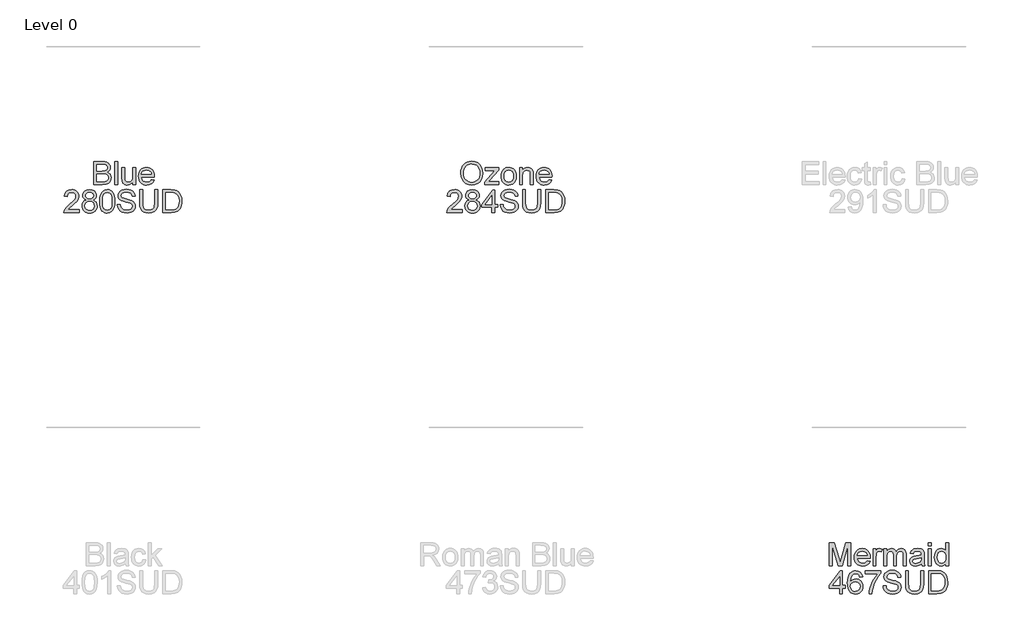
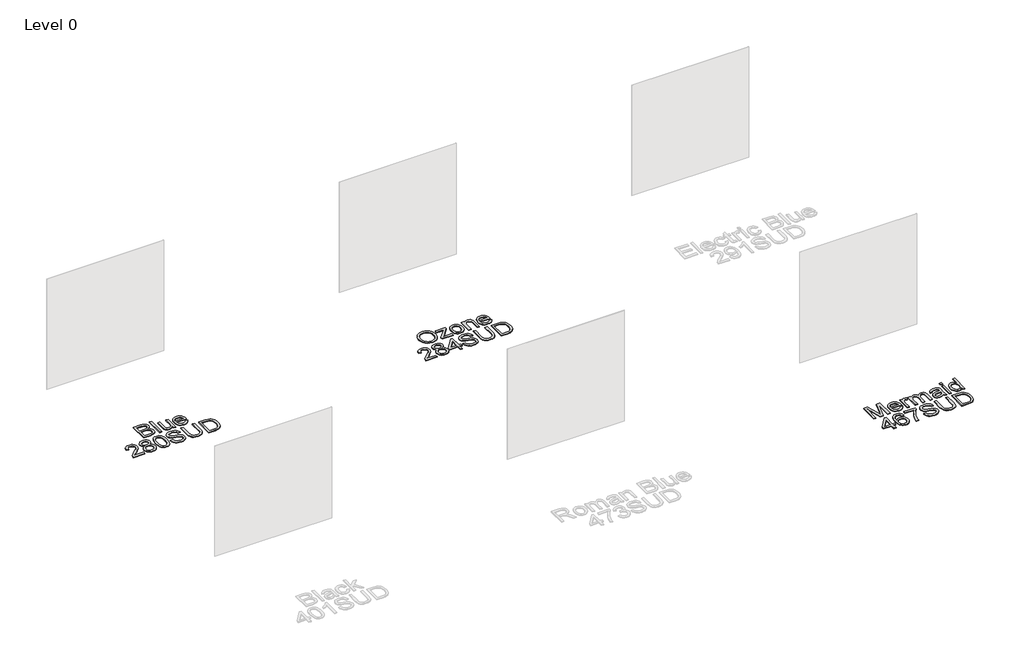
# One storey, part 17 of 37: 3 proxies.
"""IFC4 building model written with IfcOpenShell, lengths in millimetres."""

from ifc_helpers import new_model, si_unit, origin, origin_with_axes, place, context, project, spatial, polyline, outline, extrude, element, save

model = new_model("IFC4")

# Units and contexts
model_context = context("Model", 3, world=origin())
ifc_project = project(units=[si_unit("LENGTHUNIT", "METRE", prefix="MILLI")], contexts=[model_context])

# Site, building, storey
site = spatial("IfcSite", under=ifc_project)
building = spatial("IfcBuilding", under=site)
storey = spatial("IfcBuildingStorey", under=building, Name="Level 0", Elevation=0.0)

# Proxies
placement = place(None, origin())
element("IfcBuildingElementProxy", 1, Name="300mm Arial", ObjectType="300mm Arial", at=placement, inside=storey, context=model_context, shape_type="SweptSolid", body=[
    extrude(outline(polyline([(165.5674463, -36932.860494), (165.5674463, -36631.4915635), (280.567358, -36631.4915635), (312.1960126, -36633.7080526), (336.8900915, -36640.3575196), (355.8176201, -36651.6055116), (370.1466238, -36667.6175755), (379.1689298, -36686.4531336), (382.1763651, -36706.1716086), (379.6471764, -36724.317388), (372.0596102, -36741.3779155), (359.3584843, -36756.3047274), (341.4886164, -36768.0493601), (362.8349692, -36779.1961846), (378.6079097, -36796.1555446), (388.3475856, -36817.8054), (391.5941442, -36843.0237108), (389.3776551, -36864.0389697), (382.7281881, -36883.5275184), (372.8045713, -36900.1006023), (360.765633, -36912.3694668), (346.022762, -36921.253817), (327.9873472, -36927.6733578), (279.6844412, -36932.860494), (165.5674463, -36932.860494)]), holes=[polyline([(203.2385626, -36753.9226915), (272.0324957, -36753.9226915), (312.2052096, -36750.68533), (326.2674989, -36745.1027207), (336.3750567, -36736.7426024), (342.4727008, -36725.7337336), (344.5052488, -36712.2048733), (342.6106565, -36699.071486), (336.9268797, -36687.630356), (327.7114357, -36678.7000206), (315.221842, -36673.0990172), (266.8085714, -36669.1626798), (203.2385626, -36669.1626798), (203.2385626, -36753.9226915)]), polyline([(203.2385626, -36895.1893777), (280.4937816, -36895.1893777), (308.4528133, -36893.7178497), (332.1076255, -36885.5140812), (347.7793985, -36868.7754504), (352.3871205, -36856.9480443), (353.9230279, -36843.3915928), (352.1204061, -36827.6462434), (346.7125407, -36814.1081859), (337.2671705, -36803.5223815), (323.3520341, -36796.6337912), (303.6427562, -36792.8538037), (276.8149617, -36791.5938078), (203.2385626, -36791.5938078), (203.2385626, -36895.1893777)])]), origin_with_axes(), (0.0, 0.0, 1.0), 10.0),
    extrude(outline(polyline([(438.6830395, -36932.860494), (438.6830395, -36631.4915635), (476.3541558, -36631.4915635), (476.3541558, -36932.860494), (438.6830395, -36932.860494)])), origin_with_axes(), (0.0, 0.0, 1.0), 10.0),
    extrude(outline(polyline([(674.1275165, -36932.860494), (674.1275165, -36894.8214957), (660.4974885, -36913.5236966), (644.6233804, -36926.8824116), (626.5051922, -36934.8976405), (606.1429237, -36937.5693835), (587.7948092, -36935.6931853), (570.7158876, -36930.0645908), (556.3868839, -36921.6033049), (546.2885231, -36911.2290327), (535.0681223, -36883.4907302), (532.8608303, -36848.4683643), (532.8608303, -36711.5426857), (570.5319466, -36711.5426857), (570.5319466, -36830.7364521), (572.812815, -36869.1433324), (578.3034538, -36881.9548229), (587.7120358, -36891.6944987), (600.4131617, -36897.8473251), (615.781432, -36899.8982672), (632.0326192, -36897.8013398), (647.2353426, -36891.5105577), (659.7709216, -36881.605335), (668.0206753, -36868.6650858), (672.6008062, -36850.9423707), (674.1275165, -36826.6897502), (674.1275165, -36711.5426857), (711.7986328, -36711.5426857), (711.7986328, -36932.860494), (674.1275165, -36932.860494)])), origin_with_axes(), (0.0, 0.0, 1.0), 10.0),
    extrude(outline(polyline([(918.5483141, -36866.9360404), (955.4836664, -36871.64493), (942.1755352, -36899.4752029), (920.939547, -36920.2789297), (892.2539484, -36933.2467701), (856.5969861, -36937.5693835), (833.2226838, -36935.7046817), (812.3959643, -36930.1105761), (794.1168277, -36920.7870668), (778.3852739, -36907.7341537), (765.7347318, -36891.3151204), (756.6986303, -36871.8932503), (751.2769694, -36849.4685435), (749.4697491, -36824.0409998), (751.2953635, -36797.7512327), (756.7722067, -36774.5792656), (765.9002787, -36754.5250983), (778.6795795, -36737.5887309), (794.3697466, -36724.133447), (812.2304174, -36714.5225298), (832.2615921, -36708.7559796), (854.4632705, -36706.8337961), (875.9498783, -36708.751381), (895.3809454, -36714.5041357), (912.7564719, -36724.0920602), (928.0764577, -36737.5151545), (940.5821463, -36754.4147337), (949.514781, -36774.4321128), (954.8743618, -36797.5672917), (956.6608888, -36823.8202706), (956.4401596, -36833.9738137), (787.1408654, -36833.9738137), (793.6615737, -36862.1719686), (808.8091149, -36882.902119), (830.6705025, -36895.6492302), (857.3327501, -36899.8982672), (877.3823188, -36897.9300985), (894.2681024, -36892.0255925), (907.9901008, -36881.8168672), (918.5483141, -36866.9360404)]), holes=[polyline([(787.1408654, -36796.3026974), (918.9897724, -36796.3026974), (913.8946068, -36776.4002814), (903.9066106, -36762.1632482), (881.9440555, -36748.9194964), (854.3161177, -36744.5049125), (828.923063, -36748.0273826), (807.9261981, -36758.5947929), (793.3304799, -36775.0667092), (787.1408654, -36796.3026974)])]), origin_with_axes(), (0.0, 0.0, 1.0), 10.0),
    extrude(outline(polyline([(-25.14258, -37261.1138312), (-25.14258, -37298.7849475), (-222.9159406, -37298.7849475), (-218.8692386, -37272.8124787), (-209.5802183, -37252.5145896), (-195.9869785, -37232.8237058), (-176.3236859, -37212.213117), (-148.8245068, -37189.156113), (-108.1735463, -37153.0484951), (-83.78297, -37126.3954446), (-71.5876819, -37104.7639833), (-67.5225858, -37083.7211331), (-71.3577556, -37064.8579838), (-82.863265, -37049.1770138), (-100.5491919, -37038.6096035), (-122.9256143, -37035.0871334), (-146.4240767, -37038.52683), (-164.6802207, -37048.84592), (-176.4616416, -37065.2350629), (-180.5359347, -37086.8849183), (-218.207051, -37082.1760288), (-209.0743805, -37045.7373171), (-200.5280219, -37031.2013798), (-189.3283144, -37019.1210548), (-175.7327754, -37009.6251008), (-159.9989224, -37002.8422765), (-122.1162739, -36997.4160171), (-101.9264502, -36998.9243332), (-83.957714, -37003.4492818), (-68.2100653, -37010.9908627), (-54.6835042, -37021.549076), (-43.819489, -37034.3421723), (-36.0594782, -37048.5884026), (-31.4034717, -37064.2877667), (-29.8514695, -37081.4402648), (-31.5253326, -37099.4572855), (-36.5469218, -37117.1616065), (-45.4588632, -37135.1694302), (-58.8037825, -37154.0969588), (-80.0765589, -37176.6941104), (-112.7720712, -37205.7108027), (-156.1085703, -37241.9471793), (-173.1047184, -37261.1138312), (-25.14258, -37261.1138312)])), origin_with_axes(), (0.0, 0.0, 1.0), 10.0),
    extrude(outline(polyline([(67.41653, -37132.7965913), (47.2473996, -37122.8637774), (33.0931399, -37109.3992964), (24.7330215, -37092.6790597), (21.9463154, -37072.9789789), (23.4638286, -37057.6153071), (28.0163683, -37043.5300252), (35.6039345, -37030.7231332), (46.2265271, -37019.1946312), (59.3737099, -37009.6664875), (74.5350466, -37002.8606706), (110.9001818, -36997.4160171), (147.4860463, -37002.9894293), (162.8129299, -37009.9561946), (176.1624478, -37019.709666), (186.9781784, -37031.4634957), (194.7037003, -37044.4313361), (199.3390135, -37058.613187), (200.8841179, -37074.0090485), (198.1341999, -37093.0745329), (189.8844462, -37109.509661), (176.0428861, -37122.8913686), (156.5175492, -37132.7965913), (179.703312, -37144.7435591), (196.5798985, -37162.3375155), (206.8713973, -37184.732332), (210.3018969, -37211.0818799), (208.6004427, -37229.8714528), (203.49608, -37247.0975272), (194.9888089, -37262.7601031), (183.0786293, -37276.8591806), (168.3909406, -37288.5118428), (151.5511423, -37296.8351729), (132.5592343, -37301.829171), (111.4152166, -37303.4938371), (90.271199, -37301.8222732), (71.279291, -37296.8075818), (54.4394926, -37288.4497627), (39.751804, -37276.748816), (27.8416244, -37262.5508703), (19.3343532, -37246.702054), (14.2299906, -37229.2023674), (12.5285363, -37210.0518103), (16.0969917, -37182.6813898), (26.8023577, -37160.1670117), (44.0928115, -37143.2812282), (67.41653, -37132.7965913)]), holes=[polyline([(50.1996526, -37208.7274351), (56.4904348, -37237.0911369), (65.200041, -37249.2588339), (78.7472955, -37258.317928), (94.9708914, -37263.9465226), (111.7095222, -37265.8227207), (137.3508973, -37261.8771864), (156.5911256, -37250.0405832), (168.6208669, -37232.1155329), (172.6307806, -37209.9046575), (168.4921082, -37187.316703), (156.0760908, -37168.9961796), (136.3944041, -37156.8560738), (110.4587234, -37152.8093718), (85.1760333, -37156.8008915), (66.128943, -37168.7754504), (54.1819752, -37186.7464859), (50.1996526, -37208.7274351)]), polyline([(59.6174317, -37074.0826249), (62.9559608, -37090.52695), (72.9715481, -37103.6603373), (89.3698881, -37112.268776), (111.856675, -37115.1382555), (133.8192301, -37112.2871701), (149.9692497, -37103.7339137), (159.9020636, -37091.0419848), (163.2130016, -37075.774882), (159.791699, -37059.9283651), (149.5277913, -37046.822569), (133.1570425, -37038.0209923), (111.4152166, -37035.0871334), (89.535435, -37037.9566129), (73.1922773, -37046.5650516), (63.0111431, -37059.1834041), (59.6174317, -37074.0826249)])]), origin_with_axes(), (0.0, 0.0, 1.0), 10.0),
    extrude(outline(polyline([(243.2641237, -37150.5285035), (246.0324357, -37102.2899768), (254.3373718, -37063.8187172), (268.0961584, -37034.5261133), (287.2260221, -37013.8235541), (311.8649188, -37001.5179013), (342.150804, -36997.4160171), (365.3641579, -36999.8440382), (386.1494906, -37007.1281017), (403.5319149, -37018.983099), (416.5365434, -37035.1239216), (426.3589927, -37055.4126136), (434.1948792, -37079.7112194), (439.326833, -37110.5673217), (441.0374843, -37150.5285035), (438.2967634, -37198.4911186), (430.0746009, -37236.8704077), (416.3985877, -37266.1906027), (397.2963151, -37286.9759355), (372.6022362, -37299.3643617), (342.150804, -37303.4938371), (321.4022595, -37301.7004123), (303.0081597, -37296.3201381), (286.9685047, -37287.3530145), (273.2832945, -37274.7990414), (260.1499073, -37252.1053209), (250.7689164, -37223.828991), (245.1403219, -37189.9700519), (243.2641237, -37150.5285035)]), holes=[polyline([(280.93524, -37150.4549271), (285.349824, -37209.7115194), (290.8680539, -37229.9795181), (298.5935758, -37244.0073184), (318.3120507, -37260.3688702), (342.150804, -37265.8227207), (365.9895573, -37260.3504761), (385.7080322, -37243.933742), (393.4335541, -37229.8829491), (398.9517841, -37209.6195489), (403.366368, -37150.4549271), (399.0989369, -37092.5319069), (393.7646479, -37072.3305869), (386.2966434, -37057.9693935), (366.6149567, -37040.8076984), (341.7093456, -37035.0871334), (318.1281097, -37040.1271167), (299.182187, -37055.2470667), (291.1991477, -37070.8820515), (285.4969768, -37091.9616898), (280.93524, -37150.4549271)])]), origin_with_axes(), (0.0, 0.0, 1.0), 10.0),
    extrude(outline(polyline([(473.9997111, -37195.1893777), (511.6708274, -37195.1893777), (515.9934408, -37216.0942721), (523.8109332, -37232.8972822), (536.0062214, -37246.2330045), (553.462222, -37256.7360355), (574.7993778, -37263.5510494), (598.638131, -37265.8227207), (619.6257989, -37264.1028724), (638.0015045, -37258.9433274), (652.8915283, -37250.7763471), (663.4221504, -37240.0341929), (669.6853414, -37227.700949), (671.7730717, -37214.7606998), (670.2095732, -37202.1515444), (665.5190778, -37191.2530403), (655.9909341, -37181.9548229), (639.9144909, -37174.1465276), (585.0632854, -37159.7623415), (549.0568351, -37150.2433949), (526.0182252, -37141.1843008), (507.2654405, -37128.510766), (493.9757034, -37113.1516928), (486.0570435, -37095.4381747), (483.4174902, -37075.7013056), (486.6824429, -37053.637583), (496.477301, -37033.0637824), (512.5445471, -37015.6261758), (534.6266639, -37002.9710352), (561.1325616, -36995.2731044), (590.4711508, -36992.7071275), (622.2561551, -36995.3926661), (650.068034, -37003.4492818), (672.9135059, -37016.7114277), (689.7992895, -37035.013557), (700.4862614, -37057.2152354), (704.7352985, -37082.1760288), (667.0641821, -37082.1760288), (660.1480006, -37059.6984389), (645.7270264, -37043.4748429), (623.1942542, -37033.6523936), (591.9426787, -37030.3782438), (559.9553393, -37033.6156054), (538.0111782, -37043.3276901), (525.3192494, -37057.6199056), (521.0886065, -37074.5976597), (524.0868447, -37089.0738162), (533.0815595, -37100.7172813), (554.3451388, -37111.1283418), (594.5914291, -37121.7601314), (636.1253064, -37131.8584922), (661.2516466, -37140.669266), (682.7267581, -37154.3360821), (697.7087523, -37171.2034716), (706.5103291, -37191.0874934), (709.444188, -37213.8042066), (706.0688707, -37237.0267576), (695.9429188, -37258.869751), (679.4801995, -37277.668521), (657.0945801, -37291.7584014), (630.1748151, -37300.5599781), (600.109659, -37303.4938371), (563.2018979, -37300.3300519), (532.8240421, -37290.8386964), (508.6266039, -37274.9829824), (490.2600953, -37252.7261217), (478.4694773, -37225.6132187), (473.9997111, -37195.1893777)])), origin_with_axes(), (0.0, 0.0, 1.0), 10.0),
    extrude(outline(polyline([(963.7242231, -36997.4160171), (1001.3953394, -36997.4160171), (1001.3953394, -37171.277048), (998.8385595, -37211.9923878), (991.1682199, -37243.3451308), (976.8392162, -37267.533372), (954.306444, -37286.7552063), (923.514721, -37299.3091794), (884.4088649, -37303.4938371), (846.1583345, -37299.8518053), (815.5781436, -37288.92571), (792.6590953, -37271.0926303), (777.3919925, -37246.7296452), (768.811145, -37214.052527), (765.9508625, -37171.277048), (765.9508625, -36997.4160171), (803.6219788, -36997.4160171), (803.6219788, -37169.9526728), (805.4797828, -37203.8070134), (811.0531951, -37227.3790523), (821.1515558, -37243.7038158), (836.5842055, -37255.8163305), (856.7073507, -37263.3211232), (880.8771977, -37265.8227207), (919.1921075, -37260.8747079), (933.5349068, -37254.6896919), (944.6679357, -37246.0306694), (953.0050614, -37233.8537754), (958.9601512, -37217.1151446), (963.7242231, -37169.9526728), (963.7242231, -36997.4160171)])), origin_with_axes(), (0.0, 0.0, 1.0), 10.0),
    extrude(outline(polyline([(1067.3197929, -37298.7849475), (1067.3197929, -36997.4160171), (1171.2832447, -36997.4160171), (1225.0675924, -37001.7570246), (1249.0902867, -37010.12634), (1269.3605847, -37023.3149095), (1290.2010997, -37046.270746), (1305.0451382, -37074.8183889), (1313.9294884, -37108.406015), (1316.8909384, -37146.4818015), (1314.8859816, -37178.8278259), (1308.8711109, -37207.2926953), (1299.7108493, -37231.5269217), (1288.2697192, -37251.1810173), (1275.0995438, -37266.6964405), (1260.752146, -37278.5146496), (1244.2802296, -37287.2794381), (1224.7364986, -37293.6345996), (1176.2864399, -37298.7849475), (1067.3197929, -37298.7849475)]), holes=[polyline([(1104.9909092, -37261.1138312), (1171.6511267, -37261.1138312), (1199.2238823, -37259.7526678), (1220.1379737, -37255.6691777), (1235.9201113, -37249.1024841), (1248.0970053, -37240.2917103), (1261.1844073, -37223.9853408), (1271.0160536, -37202.8781114), (1277.16888, -37176.8780514), (1279.2198221, -37145.8931903), (1275.2007113, -37104.8375597), (1263.1433789, -37074.5240833), (1245.3286933, -37053.7019623), (1224.0375228, -37041.1203981), (1202.3692733, -37036.5954496), (1170.6210571, -37035.0871334), (1104.9909092, -37035.0871334), (1104.9909092, -37261.1138312)])]), origin_with_axes(), (0.0, 0.0, 1.0), 10.0),
])
element("IfcBuildingElementProxy", 2, Name="300mm Arial", ObjectType="300mm Arial", at=placement, inside=storey, context=model_context, shape_type="SweptSolid", body=[
    extrude(outline(polyline([(4958.3763066, -36786.1491543), (4960.8871013, -36750.8002931), (4968.4194851, -36719.5073309), (4980.9734582, -36692.2702677), (4998.5490205, -36669.0891034), (5020.0931099, -36650.5800406), (5044.552664, -36637.3592814), (5071.927683, -36629.4268258), (5102.2181668, -36626.782674), (5141.7470871, -36631.7490809), (5177.1925174, -36646.6483017), (5206.623077, -36670.4318727), (5228.1073855, -36702.0513302), (5241.2407727, -36739.9799639), (5245.6185685, -36782.6910635), (5241.0108465, -36825.9723803), (5227.1876805, -36864.4344429), (5204.9124257, -36896.1090827), (5174.9484372, -36919.028131), (5139.8065096, -36932.9340704), (5101.9974376, -36937.5693835), (5061.8615119, -36932.4466267), (5026.2137466, -36917.0783564), (4996.8567633, -36892.853327), (4975.593184, -36861.1602931), (4962.680526, -36824.6939903), (4958.3763066, -36786.1491543)]), holes=[polyline([(4996.0474229, -36786.5170363), (4997.9305189, -36811.4916252), (5003.5798068, -36833.661114), (5012.9952866, -36853.0255025), (5026.1769584, -36869.5847908), (5042.2005185, -36882.8469367), (5060.1416636, -36892.3198981), (5080.0003935, -36898.0036749), (5101.7767084, -36899.8982672), (5123.9255037, -36897.9852808), (5144.0187585, -36892.2463217), (5162.0564725, -36882.6813898), (5178.038646, -36869.2904852), (5191.1237487, -36852.381709), (5200.4702506, -36832.2631624), (5206.0781518, -36808.9348454), (5207.9474522, -36782.396758), (5204.7468788, -36749.0482551), (5195.1451587, -36720.2247008), (5179.3906123, -36696.6526619), (5157.7315598, -36679.0587055), (5131.6027411, -36668.1050191), (5102.438896, -36664.4537903), (5081.4190385, -36666.2127261), (5061.9166942, -36671.4895335), (5043.9318631, -36680.2842124), (5027.4645453, -36692.5967629), (5013.7195543, -36709.0203948), (5003.9017035, -36730.1483176), (4998.0109931, -36755.9805314), (4996.0474229, -36786.5170363)])]), origin_with_axes(), (0.0, 0.0, 1.0), 10.0),
    extrude(outline(polyline([(5269.1630162, -36932.860494), (5269.1630162, -36897.3966696), (5399.1725133, -36749.213802), (5360.6920566, -36749.213802), (5278.5807952, -36749.213802), (5278.5807952, -36711.5426857), (5452.8097082, -36711.5426857), (5452.8097082, -36743.5484193), (5337.5154909, -36875.0294443), (5319.8571551, -36895.1893777), (5363.4143833, -36895.1893777), (5457.5185977, -36895.1893777), (5457.5185977, -36932.860494), (5269.1630162, -36932.860494)])), origin_with_axes(), (0.0, 0.0, 1.0), 10.0),
    extrude(outline(polyline([(5485.7719349, -36822.2015898), (5487.8090815, -36793.5389839), (5493.9205211, -36768.8403064), (5504.1062539, -36748.1055575), (5518.3662797, -36731.334737), (5532.7228746, -36720.6155754), (5548.5693915, -36712.9590314), (5565.9058305, -36708.3651049), (5584.7321916, -36706.8337961), (5605.5152251, -36708.698498), (5624.3070973, -36714.2926036), (5641.1078081, -36723.6161129), (5655.9173577, -36736.669026), (5668.0045805, -36753.0098843), (5676.6383111, -36772.1972296), (5681.8185494, -36794.2310619), (5683.5452955, -36819.1113811), (5680.491875, -36857.1687735), (5671.3316133, -36886.1394806), (5656.3312249, -36907.8353213), (5635.7574244, -36924.0681143), (5611.3208628, -36934.1940662), (5584.7321916, -36937.5693835), (5563.6456555, -36935.7115794), (5544.6790394, -36930.1381672), (5527.8323433, -36920.8491468), (5513.1055672, -36907.8445183), (5501.1471031, -36891.3450108), (5492.605343, -36871.5713536), (5487.4802869, -36848.5235466), (5485.7719349, -36822.2015898)]), holes=[polyline([(5523.4430512, -36822.1280134), (5527.8024529, -36856.2214773), (5540.8806578, -36880.5108861), (5560.5623445, -36895.0514219), (5584.7321916, -36899.8982672), (5608.7916741, -36895.0238308), (5628.4365727, -36880.4005215), (5641.5147776, -36855.789216), (5645.8741792, -36820.950791), (5641.4871864, -36787.8506085), (5628.3262081, -36763.8922936), (5608.6537184, -36749.3517577), (5584.7321916, -36744.5049125), (5560.5623445, -36749.3333636), (5540.8806578, -36763.8187172), (5527.8024529, -36788.0529436), (5523.4430512, -36822.1280134)])]), origin_with_axes(), (0.0, 0.0, 1.0), 10.0),
    extrude(outline(polyline([(5725.9253014, -36932.860494), (5725.9253014, -36711.5426857), (5763.5964177, -36711.5426857), (5763.5964177, -36742.4447733), (5776.6838197, -36726.8649708), (5792.4015779, -36715.7365404), (5810.7496924, -36709.0594822), (5831.7281632, -36706.8337961), (5850.2970069, -36708.6272209), (5867.3023521, -36714.0074951), (5881.484203, -36722.303234), (5891.5825638, -36732.8430532), (5902.8765411, -36760.5445674), (5904.8631038, -36796.964885), (5904.8631038, -36932.860494), (5867.1919875, -36932.860494), (5867.1919875, -36802.0416565), (5862.85098, -36768.7115477), (5856.8453064, -36758.7879309), (5847.5103008, -36751.0900002), (5835.5449389, -36746.1511844), (5821.6481965, -36744.5049125), (5799.5844739, -36748.2021265), (5780.7765069, -36759.2937687), (5773.2602178, -36768.3482643), (5767.89144, -36780.7228949), (5763.5964177, -36815.4325611), (5763.5964177, -36932.860494), (5725.9253014, -36932.860494)])), origin_with_axes(), (0.0, 0.0, 1.0), 10.0),
    extrude(outline(polyline([(6111.6127851, -36866.9360404), (6148.5481374, -36871.64493), (6135.2400063, -36899.4752029), (6114.0040181, -36920.2789297), (6085.3184195, -36933.2467701), (6049.6614571, -36937.5693835), (6026.2871549, -36935.7046817), (6005.4604354, -36930.1105761), (5987.1812988, -36920.7870668), (5971.449745, -36907.7341537), (5958.7992028, -36891.3151204), (5949.7631013, -36871.8932503), (5944.3414404, -36849.4685435), (5942.5342201, -36824.0409998), (5944.3598345, -36797.7512327), (5949.8366777, -36774.5792656), (5958.9647497, -36754.5250983), (5971.7440506, -36737.5887309), (5987.4342176, -36724.133447), (6005.2948885, -36714.5225298), (6025.3260632, -36708.7559796), (6047.5277416, -36706.8337961), (6069.0143493, -36708.751381), (6088.4454165, -36714.5041357), (6105.820943, -36724.0920602), (6121.1409288, -36737.5151545), (6133.6466174, -36754.4147337), (6142.5792521, -36774.4321128), (6147.9388329, -36797.5672917), (6149.7253598, -36823.8202706), (6149.5046306, -36833.9738137), (5980.2053364, -36833.9738137), (5986.7260448, -36862.1719686), (6001.873586, -36882.902119), (6023.7349735, -36895.6492302), (6050.3972211, -36899.8982672), (6070.4467899, -36897.9300985), (6087.3325734, -36892.0255925), (6101.0545719, -36881.8168672), (6111.6127851, -36866.9360404)]), holes=[polyline([(5980.2053364, -36796.3026974), (6112.0542435, -36796.3026974), (6106.9590779, -36776.4002814), (6096.9710817, -36762.1632482), (6075.0085266, -36748.9194964), (6047.3805888, -36744.5049125), (6021.987534, -36748.0273826), (6000.9906692, -36758.5947929), (5986.394951, -36775.0667092), (5980.2053364, -36796.3026974)])]), origin_with_axes(), (0.0, 0.0, 1.0), 10.0),
    extrude(outline(polyline([(4974.85742, -37261.1138312), (4974.85742, -37298.7849475), (4777.0840594, -37298.7849475), (4781.1307614, -37272.8124787), (4790.4197817, -37252.5145896), (4804.0130215, -37232.8237058), (4823.6763141, -37212.213117), (4851.1754932, -37189.156113), (4891.8264537, -37153.0484951), (4916.21703, -37126.3954446), (4928.4123181, -37104.7639833), (4932.4774142, -37083.7211331), (4928.6422444, -37064.8579838), (4917.136735, -37049.1770138), (4899.4508081, -37038.6096035), (4877.0743857, -37035.0871334), (4853.5759233, -37038.52683), (4835.3197793, -37048.84592), (4823.5383584, -37065.2350629), (4819.4640653, -37086.8849183), (4781.792949, -37082.1760288), (4790.9256195, -37045.7373171), (4799.4719781, -37031.2013798), (4810.6716856, -37019.1210548), (4824.2672246, -37009.6251008), (4840.0010776, -37002.8422765), (4877.8837261, -36997.4160171), (4898.0735498, -36998.9243332), (4916.042286, -37003.4492818), (4931.7899347, -37010.9908627), (4945.3164958, -37021.549076), (4956.180511, -37034.3421723), (4963.9405218, -37048.5884026), (4968.5965283, -37064.2877667), (4970.1485305, -37081.4402648), (4968.4746674, -37099.4572855), (4963.4530782, -37117.1616065), (4954.5411368, -37135.1694302), (4941.1962175, -37154.0969588), (4919.9234411, -37176.6941104), (4887.2279288, -37205.7108027), (4843.8914297, -37241.9471793), (4826.8952816, -37261.1138312), (4974.85742, -37261.1138312)])), origin_with_axes(), (0.0, 0.0, 1.0), 10.0),
    extrude(outline(polyline([(5067.41653, -37132.7965913), (5047.2473996, -37122.8637774), (5033.0931399, -37109.3992964), (5024.7330215, -37092.6790597), (5021.9463154, -37072.9789789), (5023.4638286, -37057.6153071), (5028.0163683, -37043.5300252), (5035.6039345, -37030.7231332), (5046.2265271, -37019.1946312), (5059.3737099, -37009.6664875), (5074.5350466, -37002.8606706), (5110.9001818, -36997.4160171), (5147.4860463, -37002.9894293), (5162.8129299, -37009.9561946), (5176.1624478, -37019.709666), (5186.9781784, -37031.4634957), (5194.7037003, -37044.4313361), (5199.3390135, -37058.613187), (5200.8841179, -37074.0090485), (5198.1341999, -37093.0745329), (5189.8844462, -37109.509661), (5176.0428861, -37122.8913686), (5156.5175492, -37132.7965913), (5179.703312, -37144.7435591), (5196.5798985, -37162.3375155), (5206.8713973, -37184.732332), (5210.3018969, -37211.0818799), (5208.6004427, -37229.8714528), (5203.49608, -37247.0975272), (5194.9888089, -37262.7601031), (5183.0786293, -37276.8591806), (5168.3909406, -37288.5118428), (5151.5511423, -37296.8351729), (5132.5592343, -37301.829171), (5111.4152166, -37303.4938371), (5090.271199, -37301.8222732), (5071.279291, -37296.8075818), (5054.4394926, -37288.4497627), (5039.751804, -37276.748816), (5027.8416244, -37262.5508703), (5019.3343532, -37246.702054), (5014.2299906, -37229.2023674), (5012.5285363, -37210.0518103), (5016.0969917, -37182.6813898), (5026.8023577, -37160.1670117), (5044.0928115, -37143.2812282), (5067.41653, -37132.7965913)]), holes=[polyline([(5050.1996526, -37208.7274351), (5056.4904348, -37237.0911369), (5065.200041, -37249.2588339), (5078.7472955, -37258.317928), (5094.9708914, -37263.9465226), (5111.7095222, -37265.8227207), (5137.3508973, -37261.8771864), (5156.5911256, -37250.0405832), (5168.6208669, -37232.1155329), (5172.6307806, -37209.9046575), (5168.4921082, -37187.316703), (5156.0760908, -37168.9961796), (5136.3944041, -37156.8560738), (5110.4587234, -37152.8093718), (5085.1760333, -37156.8008915), (5066.128943, -37168.7754504), (5054.1819752, -37186.7464859), (5050.1996526, -37208.7274351)]), polyline([(5059.6174317, -37074.0826249), (5062.9559608, -37090.52695), (5072.9715481, -37103.6603373), (5089.3698881, -37112.268776), (5111.856675, -37115.1382555), (5133.8192301, -37112.2871701), (5149.9692497, -37103.7339137), (5159.9020636, -37091.0419848), (5163.2130016, -37075.774882), (5159.791699, -37059.9283651), (5149.5277913, -37046.822569), (5133.1570425, -37038.0209923), (5111.4152166, -37035.0871334), (5089.535435, -37037.9566129), (5073.1922773, -37046.5650516), (5063.0111431, -37059.1834041), (5059.6174317, -37074.0826249)])]), origin_with_axes(), (0.0, 0.0, 1.0), 10.0),
    extrude(outline(polyline([(5365.6952517, -37298.7849475), (5365.6952517, -37228.1516044), (5229.1374551, -37228.1516044), (5229.1374551, -37190.4804881), (5375.1130308, -37002.1249066), (5403.366368, -37002.1249066), (5403.366368, -37190.4804881), (5441.0374843, -37190.4804881), (5441.0374843, -37228.1516044), (5403.366368, -37228.1516044), (5403.366368, -37298.7849475), (5365.6952517, -37298.7849475)]), holes=[polyline([(5365.6952517, -37190.4804881), (5365.6952517, -37074.0826249), (5275.4905865, -37190.4804881), (5365.6952517, -37190.4804881)])]), origin_with_axes(), (0.0, 0.0, 1.0), 10.0),
    extrude(outline(polyline([(5473.9997111, -37195.1893777), (5511.6708274, -37195.1893777), (5515.9934408, -37216.0942721), (5523.8109332, -37232.8972822), (5536.0062214, -37246.2330045), (5553.462222, -37256.7360355), (5574.7993778, -37263.5510494), (5598.638131, -37265.8227207), (5619.6257989, -37264.1028724), (5638.0015045, -37258.9433274), (5652.8915283, -37250.7763471), (5663.4221504, -37240.0341929), (5669.6853414, -37227.700949), (5671.7730717, -37214.7606998), (5670.2095732, -37202.1515444), (5665.5190778, -37191.2530403), (5655.9909341, -37181.9548229), (5639.9144909, -37174.1465276), (5585.0632854, -37159.7623415), (5549.0568351, -37150.2433949), (5526.0182252, -37141.1843008), (5507.2654405, -37128.510766), (5493.9757034, -37113.1516928), (5486.0570435, -37095.4381747), (5483.4174902, -37075.7013056), (5486.6824429, -37053.637583), (5496.477301, -37033.0637824), (5512.5445471, -37015.6261758), (5534.6266639, -37002.9710352), (5561.1325616, -36995.2731044), (5590.4711508, -36992.7071275), (5622.2561551, -36995.3926661), (5650.068034, -37003.4492818), (5672.9135059, -37016.7114277), (5689.7992895, -37035.013557), (5700.4862614, -37057.2152354), (5704.7352985, -37082.1760288), (5667.0641821, -37082.1760288), (5660.1480006, -37059.6984389), (5645.7270264, -37043.4748429), (5623.1942542, -37033.6523936), (5591.9426787, -37030.3782438), (5559.9553393, -37033.6156054), (5538.0111782, -37043.3276901), (5525.3192494, -37057.6199056), (5521.0886065, -37074.5976597), (5524.0868447, -37089.0738162), (5533.0815595, -37100.7172813), (5554.3451388, -37111.1283418), (5594.5914291, -37121.7601314), (5636.1253064, -37131.8584922), (5661.2516466, -37140.669266), (5682.7267581, -37154.3360821), (5697.7087523, -37171.2034716), (5706.5103291, -37191.0874934), (5709.444188, -37213.8042066), (5706.0688707, -37237.0267576), (5695.9429188, -37258.869751), (5679.4801995, -37277.668521), (5657.0945801, -37291.7584014), (5630.1748151, -37300.5599781), (5600.109659, -37303.4938371), (5563.2018979, -37300.3300519), (5532.8240421, -37290.8386964), (5508.6266039, -37274.9829824), (5490.2600953, -37252.7261217), (5478.4694773, -37225.6132187), (5473.9997111, -37195.1893777)])), origin_with_axes(), (0.0, 0.0, 1.0), 10.0),
    extrude(outline(polyline([(5963.7242231, -36997.4160171), (6001.3953394, -36997.4160171), (6001.3953394, -37171.277048), (5998.8385595, -37211.9923878), (5991.1682199, -37243.3451308), (5976.8392162, -37267.533372), (5954.306444, -37286.7552063), (5923.514721, -37299.3091794), (5884.4088649, -37303.4938371), (5846.1583345, -37299.8518053), (5815.5781436, -37288.92571), (5792.6590953, -37271.0926303), (5777.3919925, -37246.7296452), (5768.811145, -37214.052527), (5765.9508625, -37171.277048), (5765.9508625, -36997.4160171), (5803.6219788, -36997.4160171), (5803.6219788, -37169.9526728), (5805.4797828, -37203.8070134), (5811.0531951, -37227.3790523), (5821.1515558, -37243.7038158), (5836.5842055, -37255.8163305), (5856.7073507, -37263.3211232), (5880.8771977, -37265.8227207), (5919.1921075, -37260.8747079), (5933.5349068, -37254.6896919), (5944.6679357, -37246.0306694), (5953.0050614, -37233.8537754), (5958.9601512, -37217.1151446), (5963.7242231, -37169.9526728), (5963.7242231, -36997.4160171)])), origin_with_axes(), (0.0, 0.0, 1.0), 10.0),
    extrude(outline(polyline([(6067.3197929, -37298.7849475), (6067.3197929, -36997.4160171), (6171.2832447, -36997.4160171), (6225.0675924, -37001.7570246), (6249.0902867, -37010.12634), (6269.3605847, -37023.3149095), (6290.2010997, -37046.270746), (6305.0451382, -37074.8183889), (6313.9294884, -37108.406015), (6316.8909384, -37146.4818015), (6314.8859816, -37178.8278259), (6308.8711109, -37207.2926953), (6299.7108493, -37231.5269217), (6288.2697192, -37251.1810173), (6275.0995438, -37266.6964405), (6260.752146, -37278.5146496), (6244.2802296, -37287.2794381), (6224.7364986, -37293.6345996), (6176.2864399, -37298.7849475), (6067.3197929, -37298.7849475)]), holes=[polyline([(6104.9909092, -37261.1138312), (6171.6511267, -37261.1138312), (6199.2238823, -37259.7526678), (6220.1379737, -37255.6691777), (6235.9201113, -37249.1024841), (6248.0970053, -37240.2917103), (6261.1844073, -37223.9853408), (6271.0160536, -37202.8781114), (6277.16888, -37176.8780514), (6279.2198221, -37145.8931903), (6275.2007113, -37104.8375597), (6263.1433789, -37074.5240833), (6245.3286933, -37053.7019623), (6224.0375228, -37041.1203981), (6202.3692733, -37036.5954496), (6170.6210571, -37035.0871334), (6104.9909092, -37035.0871334), (6104.9909092, -37261.1138312)])]), origin_with_axes(), (0.0, 0.0, 1.0), 10.0),
])
element("IfcBuildingElementProxy", 3, Name="300mm Arial", ObjectType="300mm Arial", at=placement, inside=storey, context=model_context, shape_type="SweptSolid", body=[
    extrude(outline(polyline([(9772.3751699, -41912.860494), (9772.3751699, -41611.4915635), (9837.1959774, -41611.4915635), (9898.8529998, -41823.9066275), (9911.2874113, -41868.2731962), (9924.7518923, -41820.2278076), (9985.3788451, -41611.4915635), (10050.1996526, -41611.4915635), (10050.1996526, -41912.860494), (10012.5285363, -41912.860494), (10012.5285363, -41649.1626798), (9936.8184217, -41912.860494), (9885.7564008, -41912.860494), (9810.0462862, -41649.1626798), (9810.0462862, -41912.860494), (9772.3751699, -41912.860494)])), origin_with_axes(), (0.0, 0.0, 1.0), 10.0),
    extrude(outline(polyline([(10266.367113, -41846.9360404), (10303.3024653, -41851.64493), (10289.9943341, -41879.4752029), (10268.758346, -41900.2789297), (10240.0727474, -41913.2467701), (10204.415785, -41917.5693835), (10181.0414827, -41915.7046817), (10160.2147633, -41910.1105761), (10141.9356267, -41900.7870668), (10126.2040728, -41887.7341537), (10113.5535307, -41871.3151204), (10104.5174292, -41851.8932503), (10099.0957683, -41829.4685435), (10097.288548, -41804.0409998), (10099.1141624, -41777.7512327), (10104.5910056, -41754.5792656), (10113.7190776, -41734.5250983), (10126.4983784, -41717.5887309), (10142.1885455, -41704.133447), (10160.0492164, -41694.5225298), (10180.080391, -41688.7559796), (10202.2820694, -41686.8337961), (10223.7686772, -41688.751381), (10243.1997444, -41694.5041357), (10260.5752708, -41704.0920602), (10275.8952567, -41717.5151545), (10288.4009453, -41734.4147337), (10297.3335799, -41754.4321128), (10302.6931608, -41777.5672917), (10304.4796877, -41803.8202706), (10304.2589585, -41813.9738137), (10134.9596643, -41813.9738137), (10141.4803727, -41842.1719686), (10156.6279138, -41862.902119), (10178.4893014, -41875.6492302), (10205.151549, -41879.8982672), (10225.2011177, -41877.9300985), (10242.0869013, -41872.0255925), (10255.8088997, -41861.8168672), (10266.367113, -41846.9360404)]), holes=[polyline([(10134.9596643, -41776.3026974), (10266.8085714, -41776.3026974), (10261.7134058, -41756.4002814), (10251.7254096, -41742.1632482), (10229.7628545, -41728.9194964), (10202.1349166, -41724.5049125), (10176.7418619, -41728.0273826), (10155.7449971, -41738.5947929), (10141.1492789, -41755.0667092), (10134.9596643, -41776.3026974)])]), origin_with_axes(), (0.0, 0.0, 1.0), 10.0),
    extrude(outline(polyline([(10342.150804, -41912.860494), (10342.150804, -41691.5426857), (10375.1130308, -41691.5426857), (10375.1130308, -41724.2841833), (10387.2899248, -41705.3014723), (10398.5103257, -41694.1178596), (10409.7675147, -41688.654812), (10422.0547734, -41686.8337961), (10440.8167551, -41689.7400639), (10459.8730425, -41698.4588672), (10447.2914782, -41732.2304343), (10434.0477264, -41726.4362929), (10420.8039746, -41724.5049125), (10409.5559826, -41726.3627165), (10399.5036071, -41731.9361288), (10391.382612, -41740.8020848), (10385.9287614, -41752.5375205), (10381.3486306, -41773.5803706), (10379.8219203, -41796.5362071), (10379.8219203, -41912.860494), (10342.150804, -41912.860494)])), origin_with_axes(), (0.0, 0.0, 1.0), 10.0),
    extrude(outline(polyline([(10483.4174902, -41912.860494), (10483.4174902, -41691.5426857), (10521.0886065, -41691.5426857), (10521.0886065, -41727.9630032), (10532.4193719, -41711.2335695), (10546.9874989, -41698.1277734), (10564.2963468, -41689.6572905), (10583.8492748, -41686.8337961), (10604.8001545, -41689.7124728), (10621.5939675, -41698.3485026), (10634.1387436, -41712.1716686), (10642.3425121, -41730.6117536), (10656.0737075, -41711.4588972), (10671.7362835, -41697.7782855), (10689.3302399, -41689.5699185), (10708.8555768, -41686.8337961), (10737.1732934, -41691.3863358), (10758.114976, -41705.0439549), (10771.0552251, -41728.1745354), (10775.3686415, -41761.1459592), (10775.3686415, -41912.860494), (10737.6975252, -41912.860494), (10737.6975252, -41777.332767), (10734.2026463, -41745.8788564), (10729.2914216, -41737.2060383), (10721.5475056, -41730.3910244), (10711.5871006, -41725.9764404), (10700.0264089, -41724.5049125), (10679.6181552, -41728.2757029), (10662.980692, -41739.5880743), (10651.916641, -41759.2145787), (10648.228624, -41787.9277684), (10648.228624, -41912.860494), (10610.5575077, -41912.860494), (10610.5575077, -41773.1389122), (10608.3778069, -41751.8385447), (10601.8387044, -41736.6450183), (10590.333195, -41727.5399389), (10573.2542734, -41724.5049125), (10558.7413287, -41726.5282634), (10545.3688181, -41732.5983163), (10534.3323583, -41742.5679184), (10526.8275656, -41756.2899168), (10522.5233462, -41775.3278101), (10521.0886065, -41801.2450966), (10521.0886065, -41912.860494), (10483.4174902, -41912.860494)])), origin_with_axes(), (0.0, 0.0, 1.0), 10.0),
    extrude(outline(polyline([(10973.1420021, -41884.6071568), (10955.1433755, -41900.0398064), (10936.61132, -41910.1381672), (10917.1227713, -41915.7115794), (10896.2546651, -41917.5693835), (10864.7731634, -41913.0996173), (10841.5506125, -41899.6903186), (10827.2308058, -41879.3280501), (10822.4575369, -41853.9993748), (10824.2601587, -41838.3827841), (10829.668024, -41824.2009331), (10838.0097483, -41812.0608273), (10848.6139468, -41802.5694718), (10874.9910858, -41790.2086368), (10907.5854306, -41784.5432541), (10946.1026755, -41778.5835657), (10972.9212729, -41771.5938078), (10973.1420021, -41763.2060983), (10970.5484341, -41746.3938912), (10962.7677299, -41735.3942195), (10945.3669115, -41727.2272392), (10921.123488, -41724.5049125), (10898.6826863, -41726.3167313), (10883.0109133, -41731.7521878), (10872.3239414, -41741.8045633), (10864.8375428, -41757.4671392), (10827.1664265, -41752.7582497), (10833.7055289, -41732.156858), (10843.4635988, -41715.9700502), (10857.3511442, -41703.590821), (10876.2786728, -41694.4121652), (10899.4276474, -41688.7283884), (10925.9795304, -41686.8337961), (10951.4461615, -41688.5076592), (10971.633686, -41693.5292485), (10986.8548035, -41701.0800264), (10997.4222138, -41710.3414556), (11004.4303658, -41721.7917827), (11008.9737085, -41735.9092543), (11010.8131184, -41768.8714811), (11010.8131184, -41815.7396473), (11012.7261048, -41881.1858542), (11020.2308975, -41912.860494), (10982.5597812, -41912.860494), (10973.1420021, -41884.6071568)]), holes=[polyline([(10973.1420021, -41809.2649241), (10912.3678965, -41820.8164188), (10879.9574928, -41826.9232599), (10865.2790012, -41836.8560738), (10860.1286532, -41851.3506244), (10862.9337534, -41862.5526311), (10871.3490541, -41871.7312869), (10885.1906141, -41877.8565221), (10904.2744926, -41879.8982672), (10924.5080024, -41877.64499), (10942.3870673, -41870.8851583), (10956.8816179, -41860.9247533), (10966.9615846, -41849.069756), (10971.4313509, -41836.8560738), (10972.9212729, -41819.933502), (10973.1420021, -41809.2649241)])]), origin_with_axes(), (0.0, 0.0, 1.0), 10.0),
    extrude(outline(polyline([(11062.6109034, -41649.1626798), (11062.6109034, -41611.4915635), (11100.2820197, -41611.4915635), (11100.2820197, -41649.1626798), (11062.6109034, -41649.1626798)])), origin_with_axes(), (0.0, 0.0, 1.0), 10.0),
    extrude(outline(polyline([(11062.6109034, -41912.860494), (11062.6109034, -41691.5426857), (11100.2820197, -41691.5426857), (11100.2820197, -41912.860494), (11062.6109034, -41912.860494)])), origin_with_axes(), (0.0, 0.0, 1.0), 10.0),
    extrude(outline(polyline([(11293.3464907, -41912.860494), (11293.3464907, -41877.3230932), (11282.0755061, -41894.9308452), (11268.4224856, -41907.507811), (11252.3874291, -41915.0539904), (11233.9703367, -41917.5693835), (11209.6165486, -41913.9273518), (11187.3228997, -41903.0012565), (11168.4505534, -41885.5544529), (11154.360673, -41862.350296), (11145.5866874, -41834.3268851), (11142.6620255, -41802.422319), (11145.3567611, -41770.9132261), (11153.440968, -41742.4575538), (11166.905449, -41718.6739828), (11185.7410071, -41701.181194), (11208.5220997, -41690.4206456), (11233.8231839, -41686.8337961), (11252.2540719, -41689.3997731), (11268.5512443, -41697.0977038), (11282.3652132, -41708.8975188), (11293.3464907, -41723.7691485), (11293.3464907, -41611.4915635), (11331.017607, -41611.4915635), (11331.017607, -41912.860494), (11293.3464907, -41912.860494)]), holes=[polyline([(11180.3331418, -41802.2751662), (11184.5821789, -41836.350236), (11197.32929, -41860.5844625), (11215.8521485, -41875.069816), (11237.4284275, -41879.8982672), (11258.9955094, -41875.2905452), (11277.0493184, -41861.4673793), (11289.2721976, -41838.1712519), (11293.3464907, -41805.1446458), (11289.1986212, -41769.037028), (11276.7550128, -41744.0026582), (11258.2413513, -41729.3793489), (11235.8833231, -41724.5049125), (11214.0863149, -41729.1862108), (11196.225644, -41743.230106), (11184.3062674, -41767.3539678), (11180.3331418, -41802.2751662)])]), origin_with_axes(), (0.0, 0.0, 1.0), 10.0),
    extrude(outline(polyline([(9904.224077, -42278.7849475), (9904.224077, -42208.1516044), (9767.6662803, -42208.1516044), (9767.6662803, -42170.4804881), (9913.641856, -41982.1249066), (9941.8951933, -41982.1249066), (9941.8951933, -42170.4804881), (9979.5663096, -42170.4804881), (9979.5663096, -42208.1516044), (9941.8951933, -42208.1516044), (9941.8951933, -42278.7849475), (9904.224077, -42278.7849475)]), holes=[polyline([(9904.224077, -42170.4804881), (9904.224077, -42054.0826249), (9814.0194117, -42170.4804881), (9904.224077, -42170.4804881)])]), origin_with_axes(), (0.0, 0.0, 1.0), 10.0),
    extrude(outline(polyline([(10205.5930074, -42057.4671392), (10167.9218911, -42062.1760288), (10161.8518382, -42043.5060175), (10153.6480697, -42030.7589064), (10136.559951, -42019.0050766), (10115.903377, -42015.0871334), (10098.392194, -42017.3680017), (10081.9110806, -42024.2106069), (10067.7568209, -42038.622384), (10056.1961292, -42058.4604206), (10048.3878338, -42086.5206198), (10045.4907631, -42125.5988847), (10060.6015161, -42107.9681401), (10078.7105073, -42095.5429257), (10098.8060612, -42088.1760888), (10119.8765025, -42085.7204764), (10137.9762967, -42087.3989381), (10154.6781393, -42092.4343229), (10169.9820303, -42100.8266309), (10183.8879697, -42112.5758621), (10195.4440629, -42126.9830407), (10203.6984151, -42143.349191), (10208.6510265, -42161.6743129), (10210.3018969, -42181.9584064), (10207.1932941, -42208.9333537), (10197.8674855, -42233.9401323), (10183.0970234, -42255.1485293), (10163.6544599, -42270.7283318), (10140.422712, -42280.3024607), (10114.2846962, -42283.4938371), (10091.8277997, -42281.3785156), (10071.5460054, -42275.0325512), (10053.4393135, -42264.4559438), (10037.5077238, -42249.6486935), (10024.5191901, -42229.9854009), (10015.241666, -42204.8406665), (10009.6751516, -42174.2144904), (10007.8196468, -42138.1068726), (10009.879786, -42097.6260575), (10016.0602035, -42063.0773396), (10026.3608993, -42034.4607189), (10040.7818736, -42011.7761954), (10056.4122598, -41996.7436174), (10074.5350466, -41986.0060617), (10095.1502339, -41979.5635282), (10118.2578217, -41977.4160171), (10151.312019, -41982.7319119), (10177.7811286, -41998.6795964), (10196.3223811, -42024.0082718), (10205.5930074, -42057.4671392)]), holes=[polyline([(10045.4907631, -42181.3697952), (10047.6704639, -42198.0624407), (10054.2095664, -42214.0009282), (10064.3631095, -42227.7045325), (10077.3861321, -42237.6925287), (10093.1038903, -42243.7901727), (10111.3416402, -42245.8227207), (10136.2012661, -42241.6104719), (10155.7449971, -42228.9737254), (10168.4093347, -42209.1080976), (10172.6307806, -42183.2092052), (10168.464517, -42158.3495793), (10155.9657263, -42139.3944595), (10136.0909015, -42127.3923095), (10109.7965359, -42123.3915928), (10084.9736982, -42127.3923095), (10064.2159567, -42139.3944595), (10050.1720615, -42157.8897269), (10045.4907631, -42181.3697952)])]), origin_with_axes(), (0.0, 0.0, 1.0), 10.0),
    extrude(outline(polyline([(10243.2641237, -42019.7960229), (10243.2641237, -41982.1249066), (10441.0374843, -41982.1249066), (10441.0374843, -42012.5855358), (10412.8485264, -42048.2608923), (10384.93548, -42093.6299393), (10360.3149775, -42144.5540045), (10342.0036512, -42196.8944154), (10333.0273305, -42236.0554538), (10328.0241354, -42278.7849475), (10290.3530191, -42278.7849475), (10294.4273122, -42239.9550029), (10305.3258163, -42193.8042066), (10322.7542258, -42144.8850983), (10346.4182352, -42097.7502177), (10374.046173, -42055.1402856), (10403.366368, -42019.7960229), (10243.2641237, -42019.7960229)])), origin_with_axes(), (0.0, 0.0, 1.0), 10.0),
    extrude(outline(polyline([(10473.9997111, -42175.1893777), (10511.6708274, -42175.1893777), (10515.9934408, -42196.0942721), (10523.8109332, -42212.8972822), (10536.0062214, -42226.2330045), (10553.462222, -42236.7360355), (10574.7993778, -42243.5510494), (10598.638131, -42245.8227207), (10619.6257989, -42244.1028724), (10638.0015045, -42238.9433274), (10652.8915283, -42230.7763471), (10663.4221504, -42220.0341929), (10669.6853414, -42207.700949), (10671.7730717, -42194.7606998), (10670.2095732, -42182.1515444), (10665.5190778, -42171.2530403), (10655.9909341, -42161.9548229), (10639.9144909, -42154.1465276), (10585.0632854, -42139.7623415), (10549.0568351, -42130.2433949), (10526.0182252, -42121.1843008), (10507.2654405, -42108.510766), (10493.9757034, -42093.1516928), (10486.0570435, -42075.4381747), (10483.4174902, -42055.7013056), (10486.6824429, -42033.637583), (10496.477301, -42013.0637824), (10512.5445471, -41995.6261758), (10534.6266639, -41982.9710352), (10561.1325616, -41975.2731044), (10590.4711508, -41972.7071275), (10622.2561551, -41975.3926661), (10650.068034, -41983.4492818), (10672.9135059, -41996.7114277), (10689.7992895, -42015.013557), (10700.4862614, -42037.2152354), (10704.7352985, -42062.1760288), (10667.0641821, -42062.1760288), (10660.1480006, -42039.6984389), (10645.7270264, -42023.4748429), (10623.1942542, -42013.6523936), (10591.9426787, -42010.3782438), (10559.9553393, -42013.6156054), (10538.0111782, -42023.3276901), (10525.3192494, -42037.6199056), (10521.0886065, -42054.5976597), (10524.0868447, -42069.0738162), (10533.0815595, -42080.7172813), (10554.3451388, -42091.1283418), (10594.5914291, -42101.7601314), (10636.1253064, -42111.8584922), (10661.2516466, -42120.669266), (10682.7267581, -42134.3360821), (10697.7087523, -42151.2034716), (10706.5103291, -42171.0874934), (10709.444188, -42193.8042066), (10706.0688707, -42217.0267576), (10695.9429188, -42238.869751), (10679.4801995, -42257.668521), (10657.0945801, -42271.7584014), (10630.1748151, -42280.5599781), (10600.109659, -42283.4938371), (10563.2018979, -42280.3300519), (10532.8240421, -42270.8386964), (10508.6266039, -42254.9829824), (10490.2600953, -42232.7261217), (10478.4694773, -42205.6132187), (10473.9997111, -42175.1893777)])), origin_with_axes(), (0.0, 0.0, 1.0), 10.0),
    extrude(outline(polyline([(10963.7242231, -41977.4160171), (11001.3953394, -41977.4160171), (11001.3953394, -42151.277048), (10998.8385595, -42191.9923878), (10991.1682199, -42223.3451308), (10976.8392162, -42247.533372), (10954.306444, -42266.7552063), (10923.514721, -42279.3091794), (10884.4088649, -42283.4938371), (10846.1583345, -42279.8518053), (10815.5781436, -42268.92571), (10792.6590953, -42251.0926303), (10777.3919925, -42226.7296452), (10768.811145, -42194.052527), (10765.9508625, -42151.277048), (10765.9508625, -41977.4160171), (10803.6219788, -41977.4160171), (10803.6219788, -42149.9526728), (10805.4797828, -42183.8070134), (10811.0531951, -42207.3790523), (10821.1515558, -42223.7038158), (10836.5842055, -42235.8163305), (10856.7073507, -42243.3211232), (10880.8771977, -42245.8227207), (10919.1921075, -42240.8747079), (10933.5349068, -42234.6896919), (10944.6679357, -42226.0306694), (10953.0050614, -42213.8537754), (10958.9601512, -42197.1151446), (10963.7242231, -42149.9526728), (10963.7242231, -41977.4160171)])), origin_with_axes(), (0.0, 0.0, 1.0), 10.0),
    extrude(outline(polyline([(11067.3197929, -42278.7849475), (11067.3197929, -41977.4160171), (11171.2832447, -41977.4160171), (11225.0675924, -41981.7570246), (11249.0902867, -41990.12634), (11269.3605847, -42003.3149095), (11290.2010997, -42026.270746), (11305.0451382, -42054.8183889), (11313.9294884, -42088.406015), (11316.8909384, -42126.4818015), (11314.8859816, -42158.8278259), (11308.8711109, -42187.2926953), (11299.7108493, -42211.5269217), (11288.2697192, -42231.1810173), (11275.0995438, -42246.6964405), (11260.752146, -42258.5146496), (11244.2802296, -42267.2794381), (11224.7364986, -42273.6345996), (11176.2864399, -42278.7849475), (11067.3197929, -42278.7849475)]), holes=[polyline([(11104.9909092, -42241.1138312), (11171.6511267, -42241.1138312), (11199.2238823, -42239.7526678), (11220.1379737, -42235.6691777), (11235.9201113, -42229.1024841), (11248.0970053, -42220.2917103), (11261.1844073, -42203.9853408), (11271.0160536, -42182.8781114), (11277.16888, -42156.8780514), (11279.2198221, -42125.8931903), (11275.2007113, -42084.8375597), (11263.1433789, -42054.5240833), (11245.3286933, -42033.7019623), (11224.0375228, -42021.1203981), (11202.3692733, -42016.5954496), (11170.6210571, -42015.0871334), (11104.9909092, -42015.0871334), (11104.9909092, -42241.1138312)])]), origin_with_axes(), (0.0, 0.0, 1.0), 10.0),
])

save(model, "model.ifc")
